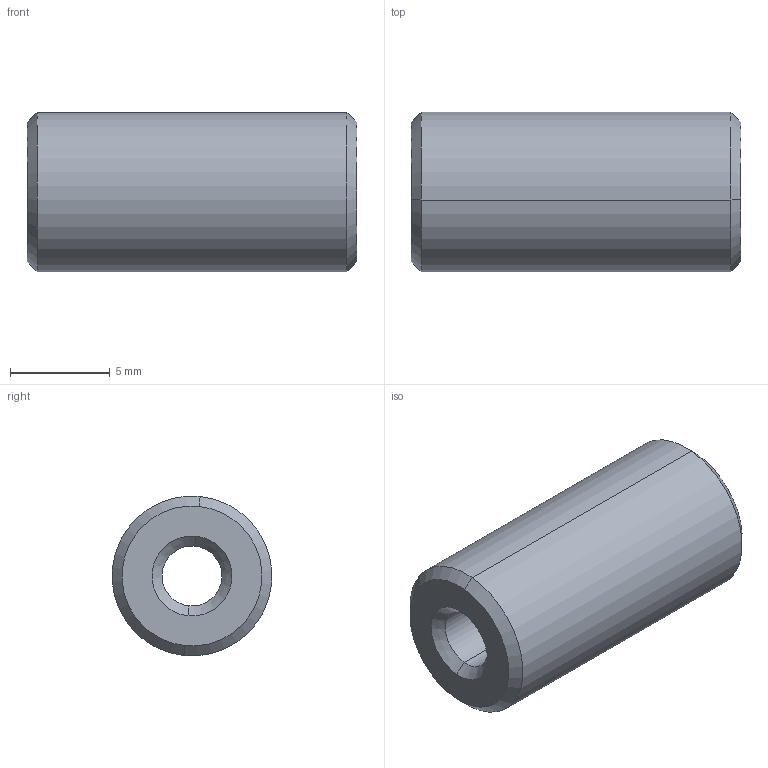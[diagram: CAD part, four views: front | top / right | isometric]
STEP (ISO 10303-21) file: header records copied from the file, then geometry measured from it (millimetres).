
FILE_DESCRIPTION(('STEP AP214'),'1');
FILE_NAME('Tray6.STP','2024-09-09T07:40:59',(' '),(' '),'Spatial InterOp 3D',' ',' ');
FILE_SCHEMA(('AUTOMOTIVE_DESIGN { 1 0 10303 214 1 1 1 1 }'));
Length unit declared in the file: millimetre
Products named in the file (1): Zylinder
Bounding box: 16.5 x 7.98 x 7.98 mm (x, y, z)
Volume: 704.1 mm3; surface area: 636.3 mm2
Topology: 1 solids, 1 shells, 14 faces, 28 edges, 16 vertices
Faces by surface type: cone 8, cylinder 4, plane 2
Entity records: 393 total; most frequent: DIRECTION 74, CARTESIAN_POINT 59, ORIENTED_EDGE 56, AXIS2_PLACEMENT_3D 31, EDGE_CURVE 28, EDGE_LOOP 16, VERTEX_POINT 16, CIRCLE 16
